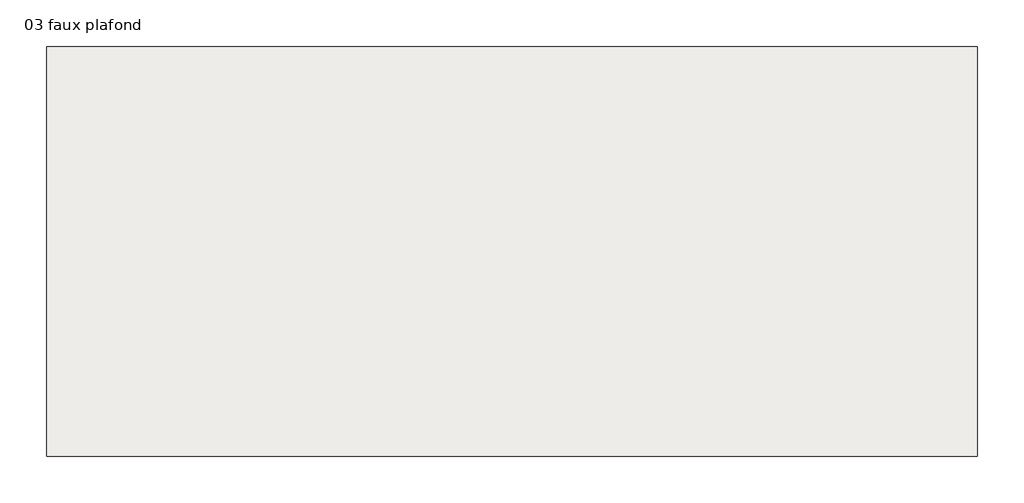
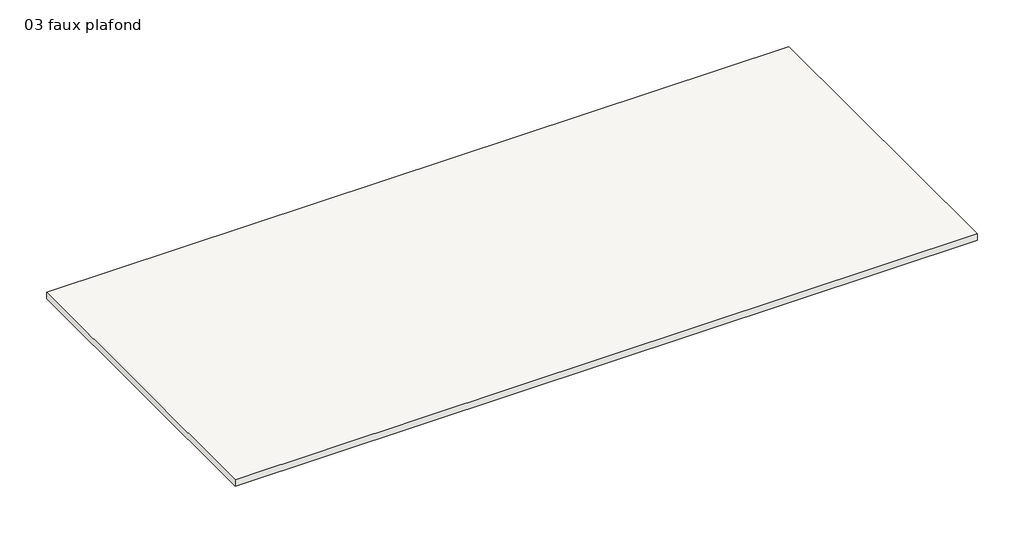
# One storey: 1 covering.
"""IFC4 building model written with IfcOpenShell, lengths in millimetres."""

from ifc_helpers import new_model, si_unit, frame, origin, place, context, project, spatial, polyline, outline, extrude, element, save

model = new_model("IFC4")

# Units and contexts
model_context = context("Model", 3, world=origin())
ifc_project = project(units=[si_unit("LENGTHUNIT", "METRE", prefix="MILLI")], contexts=[model_context])

# Site, building, storey
site = spatial("IfcSite", under=ifc_project)
building = spatial("IfcBuilding", under=site)
storey = spatial("IfcBuildingStorey", under=building, Name="03 faux plafond", Elevation=2500.0)

# Covering
placement = place(None, origin())
element("IfcCovering", 1, ObjectType="Plafond avec isolation", at=placement, inside=storey, context=model_context, shape_type="SweptSolid", body=[
    extrude(outline(polyline([(-200.0, 3660.0), (-200.0, 200.0), (-8060.0, 200.0), (-8060.0, 3660.0), (-200.0, 3660.0)])), frame((0.0, 0.0, 2500.0), z_axis=(0.0, 0.0, 1.0), x_axis=(1.0, 0.0, 0.0)), (0.0, 0.0, 1.0), 70.0),
])

save(model, "model.ifc")
